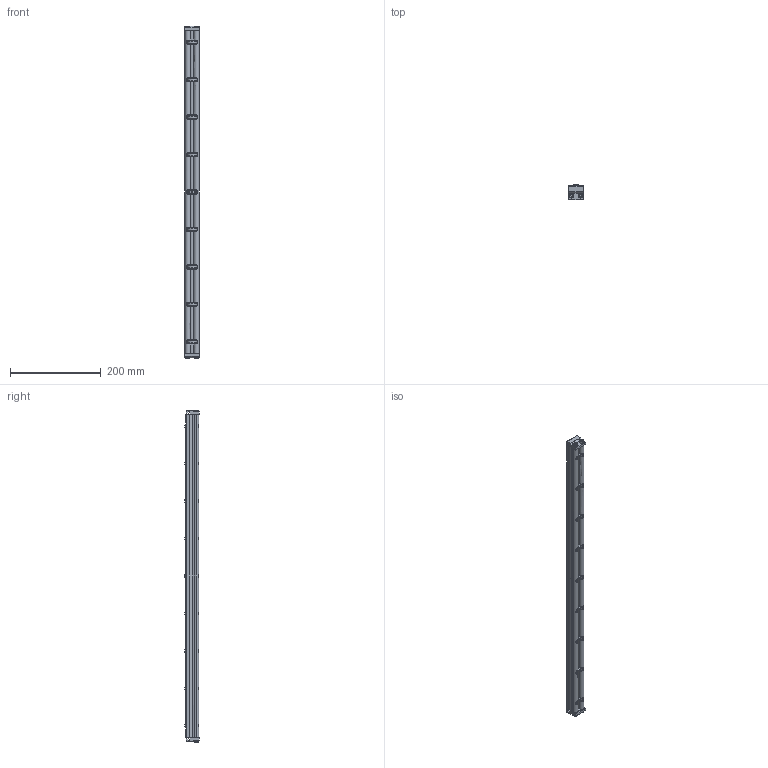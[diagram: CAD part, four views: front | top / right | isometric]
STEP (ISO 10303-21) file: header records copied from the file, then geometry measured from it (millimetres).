
FILE_DESCRIPTION((''),'2;1');
FILE_NAME('206523-28_ASM','2023-02-27T',('jenni.wallner'),(''),'PRO/ENGINEER BY PARAMETRIC TECHNOLOGY CORPORATION, 2012420','PRO/ENGINEER BY PARAMETRIC TECHNOLOGY CORPORATION, 2012420','');
FILE_SCHEMA(('CONFIG_CONTROL_DESIGN'));
Length unit declared in the file: inch
Products named in the file (7): 240826; 2436WW_243628; 9506XXM_950616M; 205977_205978_205979_205978; 2410WW_241028; ASM0001_ASM; 206523-28_ASM
Assembly tree (18 placements, depth 3):
  206523-28_ASM
    ASM0001_ASM
      240826  x9
      2436WW_243628
      9506XXM_950616M  x4
      205977_205978_205979_205978  x2
      2410WW_241028
Bounding box: 30.89 x 33.01 x 731.75 mm (x, y, z)
Volume: 350452.8 mm3; surface area: 209109.7 mm2
Topology: 17 solids, 17 shells, 611 faces, 1714 edges, 1127 vertices
Faces by surface type: cylinder 275, plane 208, cone 92, torus 36
Entity records: 14481 total; most frequent: CARTESIAN_POINT 3777, ORIENTED_EDGE 2346, DIRECTION 2174, EDGE_CURVE 1173, AXIS2_PLACEMENT_3D 811, VERTEX_POINT 781, VECTOR 552, LINE 552
